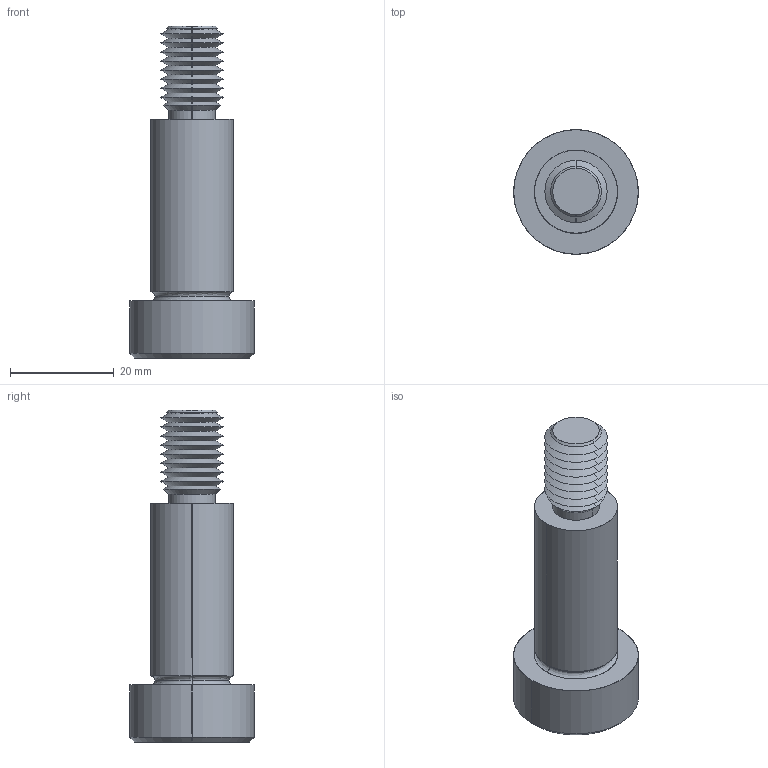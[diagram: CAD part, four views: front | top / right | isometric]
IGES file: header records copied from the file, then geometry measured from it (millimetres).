
Start section: SolidWorks IGES file using analytic representation for surfaces
Global section: file name: C:\Users\IanO\Documents\Temp Folder\GENERAL\SCREW REVISION\P0130_v2\P0130.T5_v2_20220106_IGES\P0130.160-035-T5.igs; native system: SolidWorks 2019; preprocessor: SolidWorks 2019; author: IanO; date: 220106.225345; units: millimetre
Bounding box: 24 x 24 x 64 mm (x, y, z)
Surface area: 4805.8 mm2 (no closed solid volume)
Topology: 0 solids, 0 shells, 76 faces, 588 edges, 586 vertices
Faces by surface type: revolution 56, bspline 20
